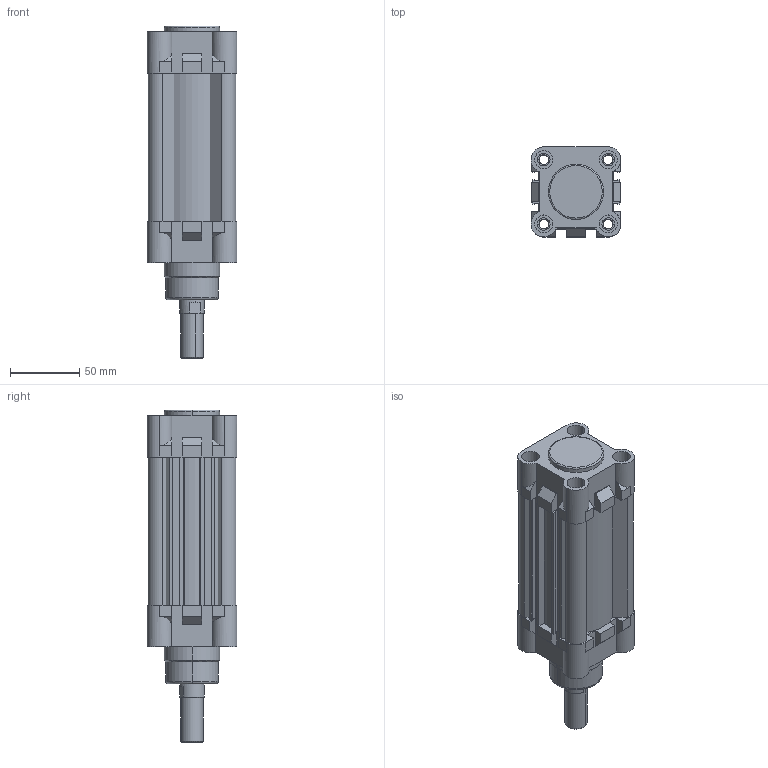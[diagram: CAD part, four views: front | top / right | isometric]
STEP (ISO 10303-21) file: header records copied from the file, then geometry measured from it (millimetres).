
FILE_DESCRIPTION (( 'STEP AP214' ), '1' );
FILE_NAME ('RIC50_75_MY_WEB.STEP', '2020-07-05T17:30:00', ( '' ), ( '' ), 'SwSTEP 2.0', 'SolidWorks 2018', '' );
FILE_SCHEMA (( 'AUTOMOTIVE_DESIGN' ));
Length unit declared in the file: millimetre
Products named in the file (6): RIC50_75_MY_WEB; 50_ARKA_KAPAK_WEB; 50bogazkecesi; 50_ON_KAPAK_WEB; 50_BORU; 20_MIL_WEB
Assembly tree (5 placements, depth 2):
  RIC50_75_MY_WEB
    50_BORU
    50_ARKA_KAPAK_WEB
    50_ON_KAPAK_WEB
    20_MIL_WEB
    50bogazkecesi
Bounding box: 65 x 65 x 240 mm (x, y, z)
Volume: 361077.9 mm3; surface area: 133812.9 mm2
Topology: 5 solids, 5 shells, 576 faces, 1465 edges, 952 vertices
Faces by surface type: plane 265, cylinder 172, bspline 83, cone 40, torus 16
Entity records: 23952 total; most frequent: CARTESIAN_POINT 8155, ORIENTED_EDGE 2930, DIRECTION 2697, EDGE_CURVE 1465, VERTEX_POINT 952, AXIS2_PLACEMENT_3D 919, VECTOR 859, LINE 859
